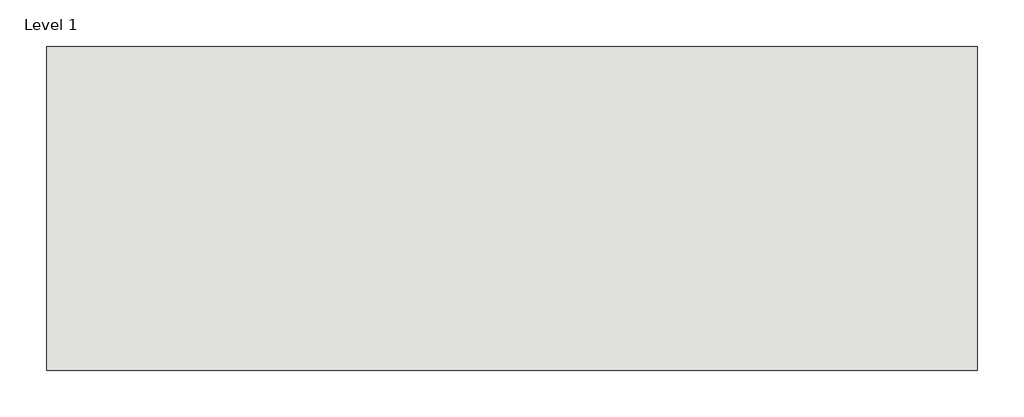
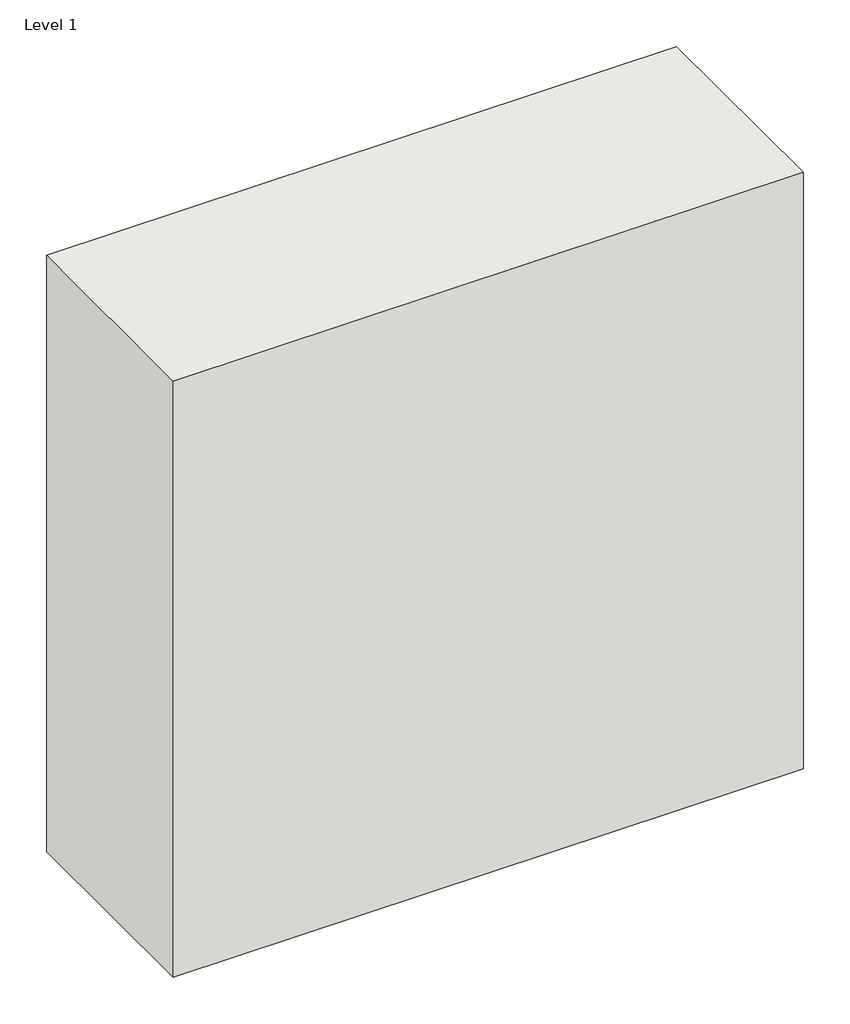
# One storey: 1 wall.
"""IFC4 building model written with IfcOpenShell, lengths in millimetres."""

import ifcopenshell
import ifcopenshell.guid

model = None  # the IFC model being written
_history = None  # IfcOwnerHistory: only IFC2X3 demands one
_inside = {}  # id of a spatial element -> (the spatial element, [elements in it])
_under = {}  # id of a project, library or spatial element -> (it, [spatial elements below it])
_declared = {}  # id of a project -> (the project, [libraries it declares])
_typed = {}  # id of a type object -> (the type object, [elements of that type])
_made_of = {}  # id of a material, layer set ... -> (it, [elements and type objects made of it])


def new_model(schema):
    """Start an empty IFC model of exactly this schema.

    Asked for "IFC4X3", IfcOpenShell would pick the latest addendum, in which some entities
    have other attributes; the version numbers below select the first issue.
    IFC2X3 requires an IfcOwnerHistory on every rooted entity: one is made here for all.
    """
    global model, _history
    if schema == "IFC4X3":
        model = ifcopenshell.file(schema_version=(4, 3, 0, 0))
    else:
        model = ifcopenshell.file(schema=schema)
    _inside.clear()
    _under.clear()
    _declared.clear()
    _typed.clear()
    _made_of.clear()
    _history = None
    if model.schema == "IFC2X3":
        org = make("IfcOrganization", Name="unknown")
        user = make(
            "IfcPersonAndOrganization",
            ThePerson=make("IfcPerson", FamilyName="unknown"),
            TheOrganization=org,
        )
        app = make(
            "IfcApplication",
            ApplicationDeveloper=org,
            Version="unknown",
            ApplicationFullName="unknown",
            ApplicationIdentifier="unknown",
        )
        _history = make(
            "IfcOwnerHistory",
            OwningUser=user,
            OwningApplication=app,
            ChangeAction="ADDED",
            CreationDate=0,
        )
    return model


def make(cls, **values):
    """One entity of the class cls with the attributes given. An attribute that is None is left unset."""
    return model.create_entity(
        cls, **{name: value for name, value in values.items() if value is not None}
    )


def rooted(cls, **values):
    """An entity with a GlobalId (a new one), such as an element, a storey or a relation."""
    return make(cls, GlobalId=ifcopenshell.guid.new(), OwnerHistory=_history, **values)


def si_unit(unit_type, name, prefix=None):
    """IfcSIUnit, for example si_unit("LENGTHUNIT", "METRE", prefix="MILLI")."""
    return make("IfcSIUnit", UnitType=unit_type, Prefix=prefix, Name=name)


def assignment(units):
    """IfcUnitAssignment: the units of a project."""
    return None if units is None else make("IfcUnitAssignment", Units=units)


def point(xyz):
    """IfcCartesianPoint."""
    return None if xyz is None else make("IfcCartesianPoint", Coordinates=xyz)


def direction(xyz):
    """IfcDirection."""
    return None if xyz is None else make("IfcDirection", DirectionRatios=xyz)


def frame(location, z_axis=None, x_axis=None):
    """IfcAxis2Placement3D, a coordinate frame: its origin and axes. An axis left out is left unset."""
    return make(
        "IfcAxis2Placement3D",
        Location=point(location),
        Axis=direction(z_axis),
        RefDirection=direction(x_axis),
    )


def origin():
    """The frame at (0, 0, 0) with its axes left unset."""
    return frame((0.0, 0.0, 0.0))


def origin_with_axes():
    """The frame at (0, 0, 0) with the z axis (0, 0, 1) and the x axis (1, 0, 0) written out."""
    return frame((0.0, 0.0, 0.0), z_axis=(0.0, 0.0, 1.0), x_axis=(1.0, 0.0, 0.0))


def place(relative_to, where):
    """IfcLocalPlacement: puts the frame where relative to a parent placement (None: the world)."""
    return make(
        "IfcLocalPlacement", PlacementRelTo=relative_to, RelativePlacement=where
    )


def context(
    kind, dimensions, precision=None, world=None, true_north=None, identifier=None
):
    """IfcGeometricRepresentationContext, for example the 3D "Model" context."""
    return make(
        "IfcGeometricRepresentationContext",
        ContextIdentifier=identifier,
        ContextType=kind,
        CoordinateSpaceDimension=dimensions,
        Precision=precision,
        WorldCoordinateSystem=world,
        TrueNorth=true_north,
    )


def project(units=None, contexts=None):
    """IfcProject with its units and contexts."""
    return rooted(
        "IfcProject",
        Name="project",
        RepresentationContexts=contexts,
        UnitsInContext=assignment(units),
    )


def spatial(cls, under=None, at=None, **own):
    """A site, building, storey or space (cls), placed at a placement, below another one or the project."""
    s = rooted(cls, ObjectPlacement=at, **own)
    if under is not None:
        _under.setdefault(under.id(), (under, []))[1].append(s)
    return s


def polyline(points):
    """IfcPolyline through the points."""
    return make("IfcPolyline", Points=[point(p) for p in points])


def outline(outer, holes=None, kind="AREA"):
    """IfcArbitraryClosedProfileDef: a profile drawn as a closed curve; with holes, ...WithVoids."""
    if holes is None:
        return make("IfcArbitraryClosedProfileDef", ProfileType=kind, OuterCurve=outer)
    return make(
        "IfcArbitraryProfileDefWithVoids",
        ProfileType=kind,
        OuterCurve=outer,
        InnerCurves=holes,
    )


def extrude(swept, where, along, depth):
    """IfcExtrudedAreaSolid: the profile swept, set in the frame where, extruded along a direction by depth."""
    return make(
        "IfcExtrudedAreaSolid",
        SweptArea=swept,
        Position=where,
        ExtrudedDirection=direction(along),
        Depth=depth,
    )


def shape(context_of_items, identifier, shape_type, items):
    """IfcShapeRepresentation: the items that make up one representation, for example the "Body"."""
    return make(
        "IfcShapeRepresentation",
        ContextOfItems=context_of_items,
        RepresentationIdentifier=identifier,
        RepresentationType=shape_type,
        Items=items,
    )


def made_of(thing, what):
    """Note that an element or type object is made of a material, layer set ...; save() writes the relation."""
    if what is not None:
        _made_of.setdefault(what.id(), (what, []))[1].append(thing)
    return thing


def element(
    cls,
    number,
    at=None,
    inside=None,
    cuts=None,
    type_object=None,
    material=None,
    context=None,
    identifier="Body",
    shape_type=None,
    held_by="IfcProductDefinitionShape",
    body=None,
    shapes=None,
    **own,
):
    """One element of the class cls, such as IfcWall. Its Tag is "e" and its number.

    at: its placement. inside: the storey or other place that contains it. cuts: it is an
    opening in that element (IfcRelVoidsElement). A single representation is given by context,
    identifier, shape_type and body (its items); several are given by shapes. held_by: the class
    of the entity that holds the representations. save() writes the other relations.
    """
    e = rooted(cls, Tag="e%d" % number, ObjectPlacement=at, **own)
    if body is not None:
        shapes = [shape(context, identifier, shape_type, body)]
    if shapes is not None:
        e.Representation = make(held_by, Representations=shapes)
    if inside is not None:
        _inside.setdefault(inside.id(), (inside, []))[1].append(e)
    if cuts is not None:
        rooted(
            "IfcRelVoidsElement", RelatingBuildingElement=cuts, RelatedOpeningElement=e
        )
    if type_object is not None:
        _typed.setdefault(type_object.id(), (type_object, []))[1].append(e)
    return made_of(e, material)


def aggregate(whole, parts):
    """IfcRelAggregates: a whole, such as a stair, and the parts it consists of."""
    return rooted("IfcRelAggregates", RelatingObject=whole, RelatedObjects=parts)


def save(model, path):
    """Write the relations noted so far, then the file.

    IfcRelAggregates (storeys below a building ...), IfcRelContainedInSpatialStructure (elements
    in a storey), IfcRelDefinesByType, IfcRelAssociatesMaterial and IfcRelDeclares: one each for
    every whole, place, type object, material and project.
    """
    for whole, parts in _under.values():
        aggregate(whole, parts)
    for where, things in _inside.values():
        rooted(
            "IfcRelContainedInSpatialStructure",
            RelatedElements=things,
            RelatingStructure=where,
        )
    for kind, things in _typed.values():
        rooted("IfcRelDefinesByType", RelatedObjects=things, RelatingType=kind)
    for what, things in _made_of.values():
        rooted("IfcRelAssociatesMaterial", RelatedObjects=things, RelatingMaterial=what)
    for by, libraries in _declared.values():
        rooted("IfcRelDeclares", RelatingContext=by, RelatedDefinitions=libraries)
    model.write(path)


model = new_model("IFC4")

# Units and contexts
model_context = context("Model", 3, world=origin())
ifc_project = project(units=[si_unit("LENGTHUNIT", "METRE", prefix="MILLI")], contexts=[model_context])

# Site, building, storey
site = spatial("IfcSite", under=ifc_project)
building = spatial("IfcBuilding", under=site)
storey = spatial("IfcBuildingStorey", under=building, Name="Level 1", Elevation=0.0)

# Wall
placement = place(None, origin())
element("IfcWall", 1, ObjectType="GYPTEC-REVESTIMENTO 73 BA13A + PRECERAM-PRO25", at=placement, inside=storey, context=model_context, shape_type="SweptSolid", body=[
    extrude(outline(polyline([(1000.0, -264.3485756), (0.0, -264.3485756), (0.0, 83.6514244), (1000.0, 83.6514244), (1000.0, -264.3485756)])), origin_with_axes(), (0.0, 0.0, 1.0), 1000.0),
])

save(model, "model.ifc")
